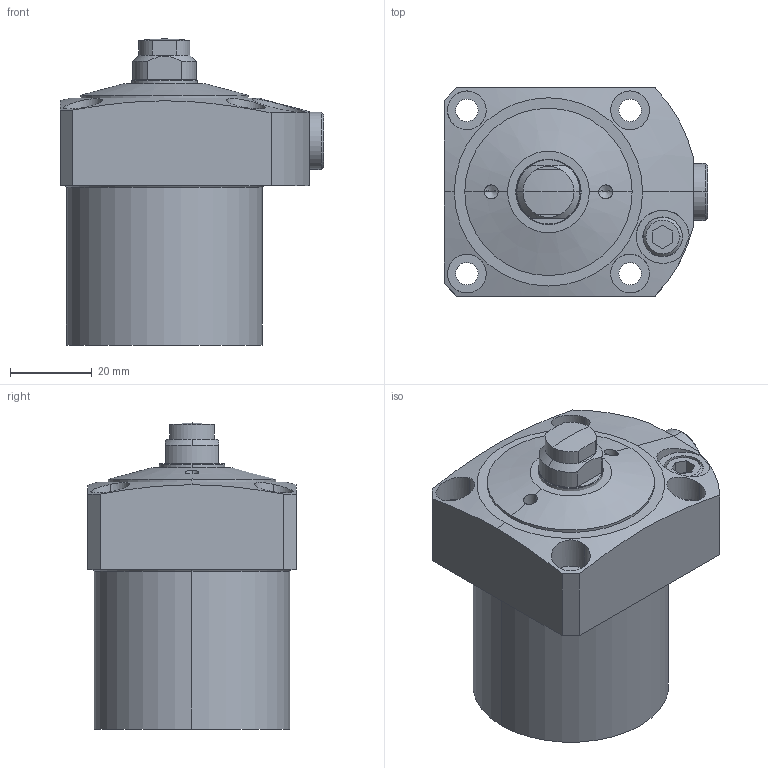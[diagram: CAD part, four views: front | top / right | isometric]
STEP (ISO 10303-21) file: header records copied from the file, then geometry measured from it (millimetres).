
FILE_DESCRIPTION(/* description */ (''),/* implementation_level */ '2;1');
FILE_NAME(/* name */ 'KFSC48.stp',/* time_stamp */ '2022-11-16T16:31:32+08:00',/* author */ (''),/* organization */ (''),/* preprocessor_version */ 'ST-DEVELOPER v16.7',/* originating_system */ 'SIEMENS PLM Software NX 12.0',/* authorisation */ '');
FILE_SCHEMA (('AP203_CONFIGURATION_CONTROLLED_3D_DESIGN_OF_MECHANICAL_PARTS_AND_ASSEMBLIES_MIM_LF { 1 0 10303 403 2 1 2}'));
Length unit declared in the file: millimetre
Products named in the file (5): KFSC48-02; KFSC48-03; KFSC48-01; KFSC48-04; LC0482-Cx_step
Assembly tree (4 placements, depth 2):
  LC0482-Cx_step
    KFSC48-04
    KFSC48-01
    KFSC48-03
    KFSC48-02
Bounding box: 64.5 x 51 x 75 mm (x, y, z)
Volume: 135359.2 mm3; surface area: 20471.7 mm2
Topology: 4 solids, 4 shells, 118 faces, 265 edges, 166 vertices
Faces by surface type: cylinder 48, plane 46, cone 20, torus 2, sphere 2
Entity records: 4041 total; most frequent: CARTESIAN_POINT 796, DIRECTION 595, ORIENTED_EDGE 522, EDGE_CURVE 261, AXIS2_PLACEMENT_3D 235, VERTEX_POINT 166, EDGE_LOOP 141, LINE 125
